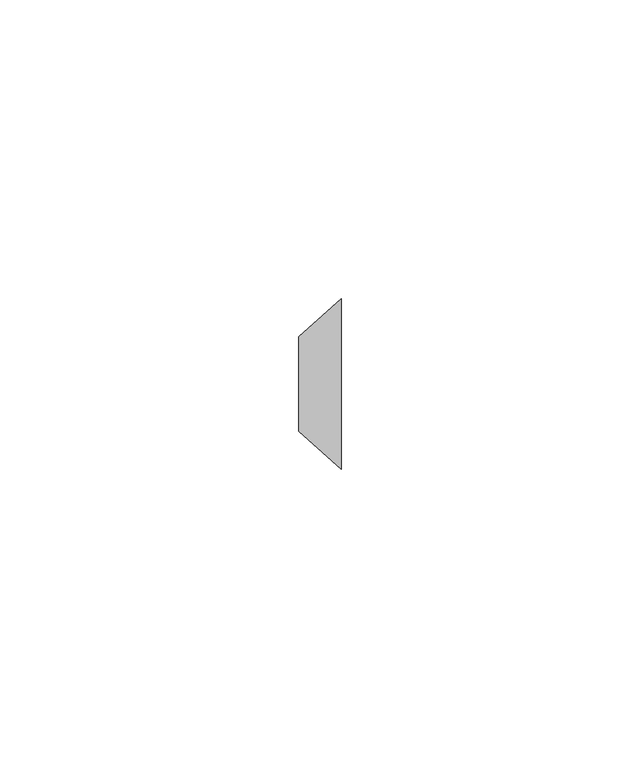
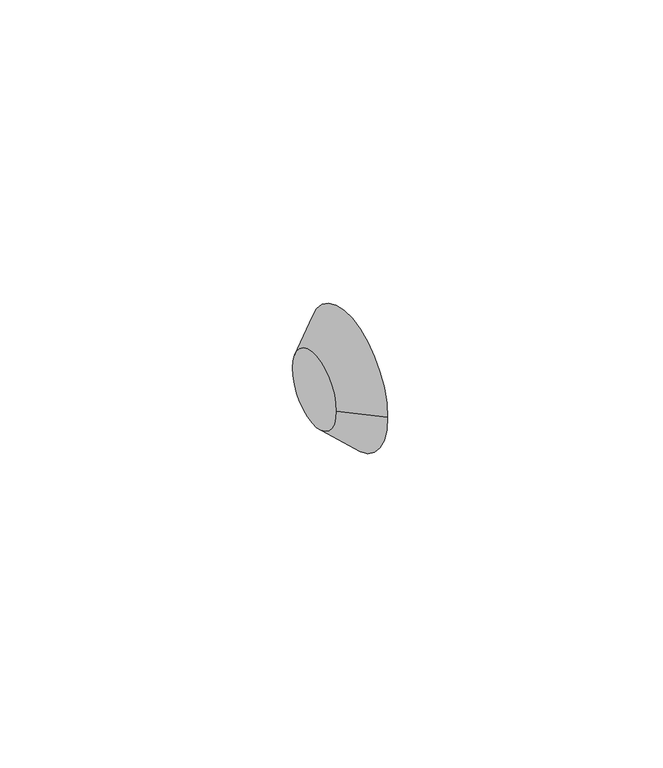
"""IFC4 building model written with IfcOpenShell, lengths in millimetres: pipe fitting geometry, M_Transición - Genérica : Estándar."""

from ifc_helpers import new_model, si_unit, frame, origin, place, context, project, spatial, polyline, circle_curve, source, transform, mapped, element, save
from ifc_brep_helpers import plane_surface, revolved_surface, advanced_brep


def pipe_fitting_f94741dc(model_context):
    return source(origin(), model_context, "Body", "AdvancedBrep", [
        advanced_brep(
        [(7.14375, 14.2875, 0.0), (7.14375, -14.2875, 0.0), (0.0, 7.9375, 0.0), (0.0, -7.9375, 0.0)],
        [
            (0, 1, circle_curve(frame((7.14375, 0.0, 0.0), z_axis=(1.0, 0.0, 0.0), x_axis=(0.0, -1.0, 0.0)), 14.2875)),
            (1, 0, circle_curve(frame((7.14375, 0.0, 0.0), z_axis=(1.0, 0.0, 0.0), x_axis=(0.0, 1.0, 0.0)), 14.2875)),
            (2, 3, circle_curve(frame((0.0, 0.0, 0.0), z_axis=(-1.0, 0.0, 0.0), x_axis=(0.0, 1.0, 0.0)), 7.9375)),
            (3, 2, circle_curve(frame((0.0, 0.0, 0.0), z_axis=(-1.0, 0.0, 0.0), x_axis=(0.0, -1.0, 0.0)), 7.9375)),
            (2, 0),
            (1, 3),
        ],
        [
            plane_surface(frame((7.14375, 0.0, 0.0), z_axis=(1.0, 0.0, 0.0), x_axis=(0.0, 0.0, -1.0))),
            plane_surface(frame((0.0, 0.0, 0.0), z_axis=(-1.0, 0.0, 0.0), x_axis=(0.0, 0.0, -1.0))),
            revolved_surface(polyline([(0.0, 7.9375, 0.0), (7.143750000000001, 14.2875, 0.0)]), (-8.9296875, 0.0, 0.0), (1.0, 0.0, 0.0)),
            revolved_surface(polyline([(0.0, -7.9375, 0.0), (7.143750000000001, -14.2875, 0.0)]), (-8.9296875, 0.0, 0.0), (1.0, 0.0, 0.0)),
        ],
        [
            (0, [[1, 2]]),
            (1, [[3, 4]]),
            (2, [[5, -2, 6, -3]]),
            (3, [[-6, -1, -5, -4]]),
        ],
    ),
    ])


if __name__ == "__main__":
    model = new_model("IFC4")
    model_context = context("Model", 3, world=origin())
    ifc_project = project(units=[si_unit("LENGTHUNIT", "METRE", prefix="MILLI")], contexts=[model_context])
    site = spatial("IfcSite", under=ifc_project)
    building = spatial("IfcBuilding", under=site)
    placement = place(None, origin())
    pipe_fitting_shape = pipe_fitting_f94741dc(model_context)
    element("IfcPipeFitting", 1, ObjectType="M_Transición - Genérica : Estándar", at=placement, inside=building, context=model_context, shape_type="MappedRepresentation", body=[
        mapped(pipe_fitting_shape, transform((0.0, 0.0, 0.0), x_axis=(1.0, 0.0, 0.0), y_axis=(0.0, 1.0, 0.0), z_axis=(0.0, 0.0, 1.0))),
    ])
    save(model, "model.ifc")
